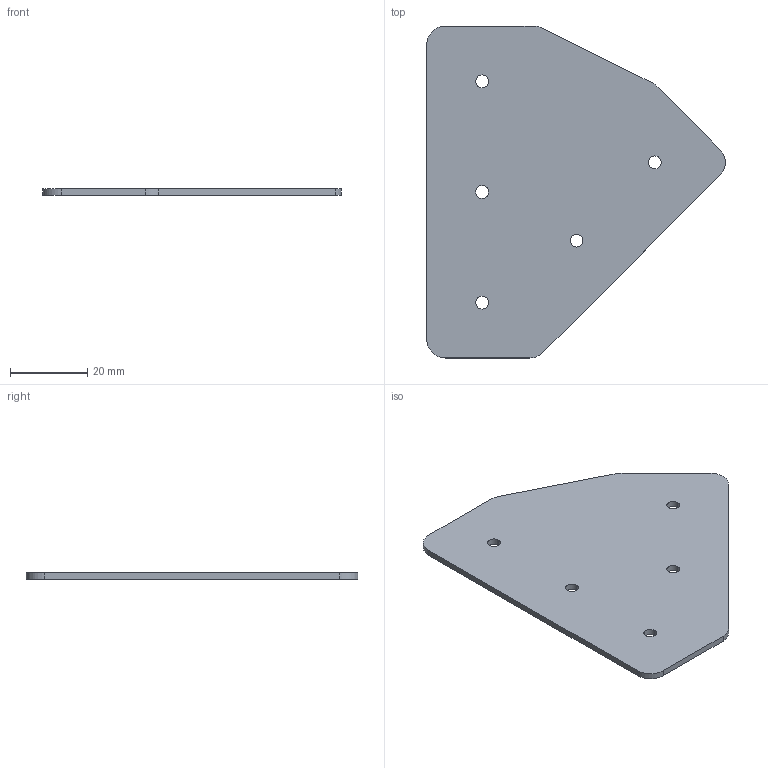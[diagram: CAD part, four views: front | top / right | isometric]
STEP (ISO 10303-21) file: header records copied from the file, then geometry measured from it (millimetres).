
FILE_DESCRIPTION (( 'STEP AP203' ), '1' );
FILE_NAME ('FDPGK-S_1-45.step', '2019-09-11T19:47:49', ( 'ydmin' ), ( '' ), 'SwSTEP 2.0', 'SolidWorks 2017', '' );
FILE_SCHEMA (( 'CONFIG_CONTROL_DESIGN' ));
Length unit declared in the file: inch
Products named in the file (1): FDPGK-S_1-45
Bounding box: 77.06 x 85.72 x 1.59 mm (x, y, z)
Volume: 7478.4 mm3; surface area: 9932.9 mm2
Topology: 1 solids, 1 shells, 24 faces, 66 edges, 44 vertices
Faces by surface type: cylinder 16, plane 8
Entity records: 881 total; most frequent: DIRECTION 148, CARTESIAN_POINT 135, ORIENTED_EDGE 132, EDGE_CURVE 66, AXIS2_PLACEMENT_3D 57, VERTEX_POINT 44, LINE 34, EDGE_LOOP 34
